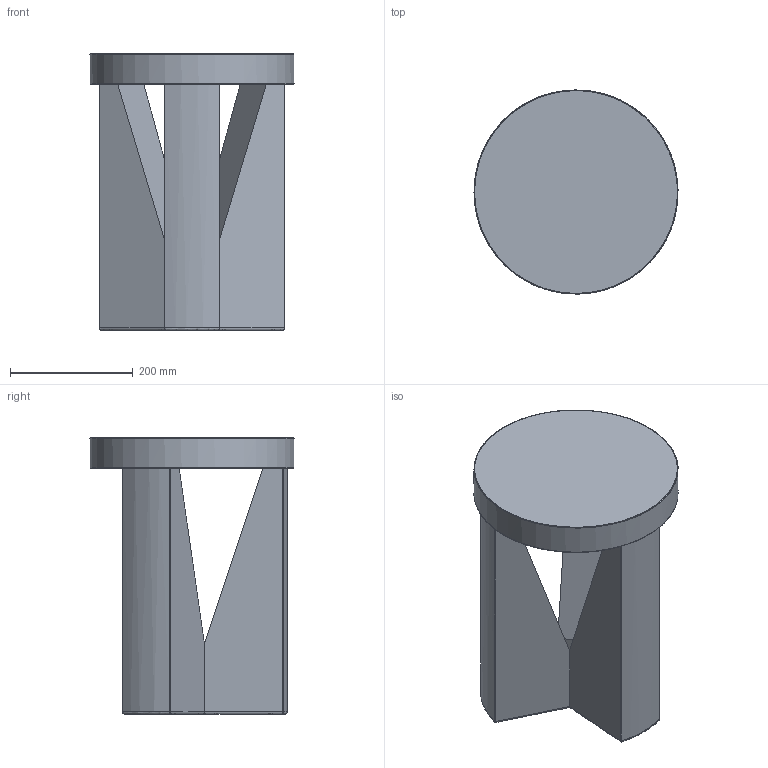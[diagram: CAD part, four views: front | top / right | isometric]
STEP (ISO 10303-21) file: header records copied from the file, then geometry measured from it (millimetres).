
FILE_DESCRIPTION(/* description */ (''),/* implementation_level */ '2;1');
FILE_NAME(/* name */ 'MC20_C~1',/* time_stamp */ '2021-04-14T13:50:51+02:00',/* author */ (''),/* organization */ (''),/* preprocessor_version */ 'ST-DEVELOPER v16.5',/* originating_system */ '',/* authorisation */ '');
FILE_SCHEMA (('AUTOMOTIVE_DESIGN'));
Length unit declared in the file: millimetre
Products named in the file (1): Document
Bounding box: 331.8 x 331.85 x 450 mm (x, y, z)
Surface area: 685876.4 mm2 (no closed solid volume)
Topology: 0 solids, 58 shells, 58 faces, 263 edges, 254 vertices
Faces by surface type: bspline 58
Entity records: 7549 total; most frequent: CARTESIAN_POINT 5316, B_SPLINE_CURVE_WITH_KNOTS 296, ORIENTED_EDGE 260, PCURVE 260, DEFINITIONAL_REPRESENTATION 260, SURFACE_CURVE 257, EDGE_CURVE 257, VERTEX_POINT 254
